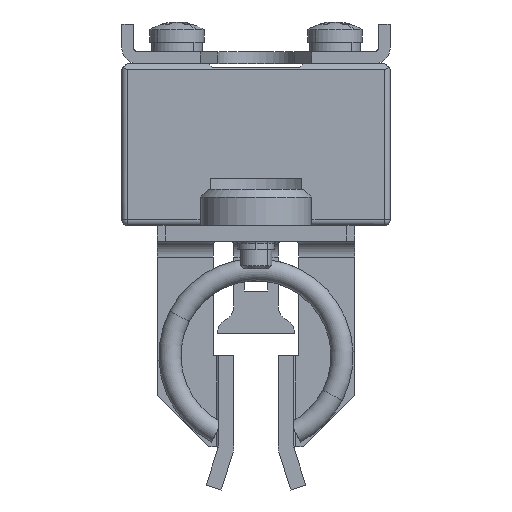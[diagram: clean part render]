
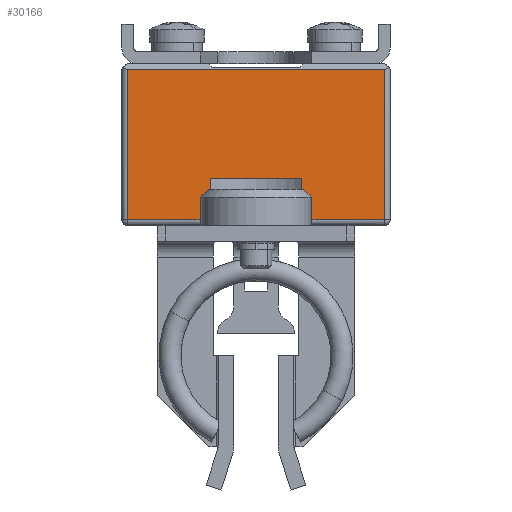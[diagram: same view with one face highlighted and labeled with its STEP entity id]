
A CAD part, left-side view. The second image highlights one B-rep face of the part: STEP entity #30166.
In plain terms, the highlighted planar face has unit normal (-1, 0, 0).
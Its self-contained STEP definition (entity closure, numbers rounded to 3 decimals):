
#4121 = VECTOR ( 'NONE', #4145, 1000. ) ;
#4122 = CARTESIAN_POINT ( 'NONE',  ( -1., 17., -5.7 ) ) ;
#4123 = LINE ( 'NONE', #4122, #4121 ) ;
#4144 = CARTESIAN_POINT ( 'NONE',  ( -1., 16.3, -5.7 ) ) ;
#4145 = DIRECTION ( 'NONE',  ( 0., 1., 0. ) ) ;
#16399 = DIRECTION ( 'NONE',  ( 0., 0., 1. ) ) ;
#16400 = VECTOR ( 'NONE', #16399, 1000. ) ;
#16402 = CARTESIAN_POINT ( 'NONE',  ( -1., -16.3, -5. ) ) ;
#16403 = LINE ( 'NONE', #16402, #16400 ) ;
#16444 = CARTESIAN_POINT ( 'NONE',  ( -1., -16.3, -5.7 ) ) ;
#16445 = CARTESIAN_POINT ( 'NONE',  ( -1., -16.3, -24.8 ) ) ;
#19275 = FACE_OUTER_BOUND ( 'NONE', #30243, .T. ) ;
#19606 = AXIS2_PLACEMENT_3D ( 'NONE', #19726, #19725, #19650 ) ;
#19607 = PLANE ( 'NONE',  #19606 ) ;
#19650 = DIRECTION ( 'NONE',  ( 0., 0., 1. ) ) ;
#19725 = DIRECTION ( 'NONE',  ( 1., 0., 0. ) ) ;
#19726 = CARTESIAN_POINT ( 'NONE',  ( -1., 17., -5. ) ) ;
#19906 = DIRECTION ( 'NONE',  ( 0., -1., 0. ) ) ;
#19927 = CARTESIAN_POINT ( 'NONE',  ( -1., -5.809, -24.8 ) ) ;
#19971 = VECTOR ( 'NONE', #19906, 1000. ) ;
#19997 = DIRECTION ( 'NONE',  ( 0., 0., -1. ) ) ;
#20018 = CARTESIAN_POINT ( 'NONE',  ( -1., -17., -24.8 ) ) ;
#20019 = LINE ( 'NONE', #20163, #20062 ) ;
#20062 = VECTOR ( 'NONE', #19997, 1000. ) ;
#20097 = LINE ( 'NONE', #20018, #19971 ) ;
#20163 = CARTESIAN_POINT ( 'NONE',  ( -1., -5.809, -19.5 ) ) ;
#20694 = LINE ( 'NONE', #20721, #20716 ) ;
#20703 = DIRECTION ( 'NONE',  ( 0., -1., 0. ) ) ;
#20704 = VECTOR ( 'NONE', #20703, 1000. ) ;
#20705 = CARTESIAN_POINT ( 'NONE',  ( -1., 5.809, -24.8 ) ) ;
#20706 = LINE ( 'NONE', #20705, #20704 ) ;
#20708 = CARTESIAN_POINT ( 'NONE',  ( -1., 16.3, -24.8 ) ) ;
#20709 = DIRECTION ( 'NONE',  ( 0., 0., -1. ) ) ;
#20710 = VECTOR ( 'NONE', #20709, 1000. ) ;
#20711 = CARTESIAN_POINT ( 'NONE',  ( -1., 16.3, -5. ) ) ;
#20712 = LINE ( 'NONE', #20711, #20710 ) ;
#20713 = LINE ( 'NONE', #20734, #20733 ) ;
#20714 = CARTESIAN_POINT ( 'NONE',  ( -1., 5.809, -19.5 ) ) ;
#20715 = DIRECTION ( 'NONE',  ( 0., 0., -1. ) ) ;
#20716 = VECTOR ( 'NONE', #20715, 1000. ) ;
#20721 = CARTESIAN_POINT ( 'NONE',  ( -1., 5.809, -19.5 ) ) ;
#20726 = CARTESIAN_POINT ( 'NONE',  ( -1., -5.809, -19.5 ) ) ;
#20732 = DIRECTION ( 'NONE',  ( 0., 1., 0. ) ) ;
#20733 = VECTOR ( 'NONE', #20732, 1000. ) ;
#20734 = CARTESIAN_POINT ( 'NONE',  ( -1., 5.809, -19.5 ) ) ;
#20803 = CARTESIAN_POINT ( 'NONE',  ( -1., 5.809, -24.8 ) ) ;
#30038 = ORIENTED_EDGE ( 'NONE', *, *, #30039, .T. ) ;
#30039 = EDGE_CURVE ( 'NONE', #30040, #30041, #16403, .T. ) ;
#30040 = VERTEX_POINT ( 'NONE', #16445 ) ;
#30041 = VERTEX_POINT ( 'NONE', #16444 ) ;
#30166 = ADVANCED_FACE ( 'NONE', ( #19275 ), #19607, .F. ) ;
#30243 = EDGE_LOOP ( 'NONE', ( #30038, #30564, #30567, #30484, #30460, #30465, #30244, #30247 ) ) ;
#30244 = ORIENTED_EDGE ( 'NONE', *, *, #30245, .T. ) ;
#30245 = EDGE_CURVE ( 'NONE', #30456, #30246, #20019, .T. ) ;
#30246 = VERTEX_POINT ( 'NONE', #19927 ) ;
#30247 = ORIENTED_EDGE ( 'NONE', *, *, #30248, .T. ) ;
#30248 = EDGE_CURVE ( 'NONE', #30246, #30040, #20097, .T. ) ;
#30456 = VERTEX_POINT ( 'NONE', #20726 ) ;
#30460 = ORIENTED_EDGE ( 'NONE', *, *, #30462, .F. ) ;
#30462 = EDGE_CURVE ( 'NONE', #30464, #30486, #20694, .T. ) ;
#30464 = VERTEX_POINT ( 'NONE', #20714 ) ;
#30465 = ORIENTED_EDGE ( 'NONE', *, *, #30466, .F. ) ;
#30466 = EDGE_CURVE ( 'NONE', #30456, #30464, #20713, .T. ) ;
#30481 = EDGE_CURVE ( 'NONE', #30566, #30483, #20712, .T. ) ;
#30483 = VERTEX_POINT ( 'NONE', #20708 ) ;
#30484 = ORIENTED_EDGE ( 'NONE', *, *, #30485, .T. ) ;
#30485 = EDGE_CURVE ( 'NONE', #30483, #30486, #20706, .T. ) ;
#30486 = VERTEX_POINT ( 'NONE', #20803 ) ;
#30564 = ORIENTED_EDGE ( 'NONE', *, *, #30565, .T. ) ;
#30565 = EDGE_CURVE ( 'NONE', #30041, #30566, #4123, .T. ) ;
#30566 = VERTEX_POINT ( 'NONE', #4144 ) ;
#30567 = ORIENTED_EDGE ( 'NONE', *, *, #30481, .T. ) ;
